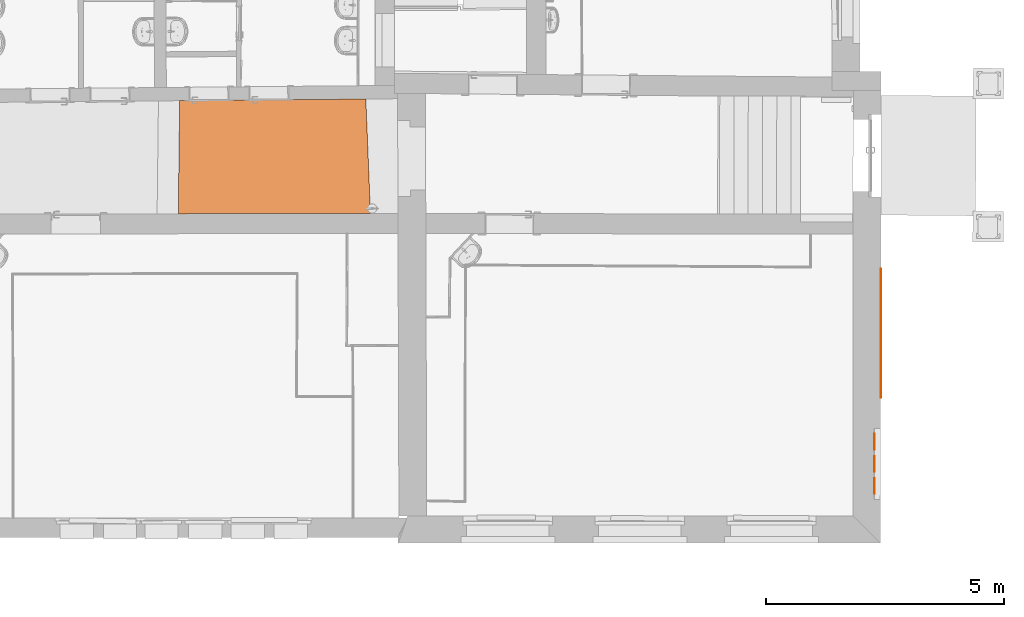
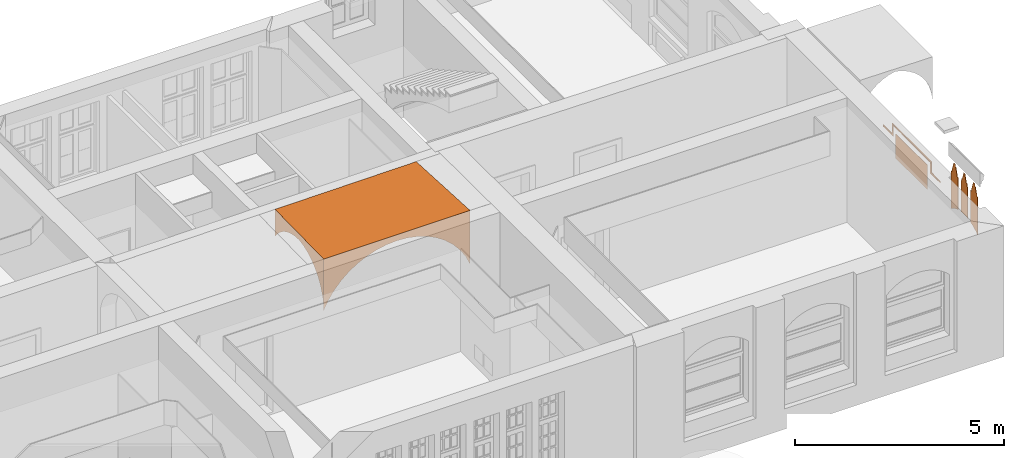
# One storey, part 150 of 158: 6 proxies.
"""IFC2X3 building model written with IfcOpenShell, lengths in metres."""

from ifc_helpers import new_model, entity, si_unit, converted_unit, derived_unit, money_unit, direction, frame, origin_with_axes, place, context, subcontext, project, spatial, open_shell, faceted_brep, surface_model, material, type_object, element, save


model = new_model("IFC2X3")

# Units and contexts
model_context = context("Model", 3, precision=1e-05, world=origin_with_axes(), true_north=direction((0.0, 1.0)))
body_context = subcontext(model_context, "Body", "Model", "MODEL_VIEW")
ifc_project = project(units=[si_unit("LENGTHUNIT", "METRE"), si_unit("AREAUNIT", "SQUARE_METRE"), si_unit("VOLUMEUNIT", "CUBIC_METRE"), converted_unit("PLANEANGLEUNIT", "DEGREE", entity("IfcPlaneAngleMeasure", 0.0174532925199), si_unit("PLANEANGLEUNIT", "RADIAN"), dimensions=[0, 0, 0, 0, 0, 0, 0]), money_unit("EUR"), converted_unit("TIMEUNIT", "Year", entity("IfcTimeMeasure", 31556926.0), si_unit("TIMEUNIT", "SECOND"), dimensions=[0, 0, 1, 0, 0, 0, 0]), si_unit("MASSUNIT", "GRAM", prefix="KILO"), si_unit("THERMODYNAMICTEMPERATUREUNIT", "DEGREE_CELSIUS"), si_unit("LUMINOUSINTENSITYUNIT", "LUMEN"), si_unit("ENERGYUNIT", "JOULE", prefix="MEGA"), derived_unit("THERMALCONDUCTANCEUNIT", [(si_unit("POWERUNIT", "WATT"), 1), (si_unit("LENGTHUNIT", "METRE"), -1), (si_unit("THERMODYNAMICTEMPERATUREUNIT", "KELVIN"), -1)]), derived_unit("SPECIFICHEATCAPACITYUNIT", [(si_unit("ENERGYUNIT", "JOULE"), 1), (si_unit("MASSUNIT", "GRAM", prefix="KILO"), -1), (si_unit("THERMODYNAMICTEMPERATUREUNIT", "KELVIN"), -1)]), derived_unit("MASSDENSITYUNIT", [(si_unit("MASSUNIT", "GRAM", prefix="KILO"), 1), (si_unit("VOLUMEUNIT", "CUBIC_METRE"), -1)])], contexts=[model_context])

# Site, building, storey
site_placement = place(None, origin_with_axes())
site = spatial("IfcSite", under=ifc_project, at=site_placement, Name="Gelände", CompositionType="ELEMENT")
building_placement = place(site_placement, origin_with_axes())
building = spatial("IfcBuilding", under=site, at=building_placement, Name="Gebäude", CompositionType="ELEMENT")
storey_placement = place(building_placement, origin_with_axes())
storey = spatial("IfcBuildingStorey", under=building, at=storey_placement, Name="ERDGESCHOSS", CompositionType="ELEMENT", Elevation=0.0)

# Proxies
ifc_material = material(Name="01_ALLGEMEIN - BAUTEIL")
building_element_proxy_type_1 = type_object("IfcBuildingElementProxyType", Name="01_ALLGEMEIN - BAUTEIL", PredefinedType="NOTDEFINED")
proxy_1_placement = place(storey_placement, frame((31.9779050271, 10.9235025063, 2.75776734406), z_axis=(0.0, 0.0, 1.0), x_axis=(1.0, 0.0, 0.0)))
element("IfcBuildingElementProxy", 1, at=proxy_1_placement, inside=storey, type_object=building_element_proxy_type_1, material=ifc_material, Name="Morph-329", context=body_context, shape_type="Brep", body=[
    faceted_brep([(0.0, 0.0, 1.10229232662), (0.0, 0.0, 0.0), (0.01, 0.0, 0.0), (0.01, 0.0, 1.10229232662), (0.0, 0.0374685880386, 0.0272185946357), (0.0, 0.0350000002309, 1.10229232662), (0.0, 0.0350000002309, 1.18637933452), (0.0, 0.0700000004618, 1.18637933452), (0.0, 0.0700000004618, 1.2604663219), (0.0, 0.0950000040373, 1.2604663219), (0.0, 0.0950000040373, 1.33490932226), (0.0, 0.124999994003, 1.33490932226), (0.0, 0.124999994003, 1.40935232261), (0.0, 0.202516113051, 1.40935232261), (0.0, 0.202516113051, 1.33490932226), (0.0, 0.232516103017, 1.33490932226), (0.0, 0.232516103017, 1.2604663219), (0.0, 0.257516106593, 1.2604663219), (0.0, 0.257516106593, 1.18637933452), (0.0, 0.292516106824, 1.18637933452), (0.0, 0.292516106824, 1.10229232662), (0.0, 0.327516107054, 1.10229232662), (0.0, 0.328141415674, 0.16784323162), (0.0, 0.284142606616, 0.153391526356), (0.0, 0.240828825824, 0.137000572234), (0.0, 0.198285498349, 0.118702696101), (0.0, 0.156596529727, 0.0985339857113), (0.0, 0.115844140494, 0.0765342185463), (0.0, 0.0761087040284, 0.052746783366), (0.01, 0.0374685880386, 0.0272185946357), (0.01, 0.0761087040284, 0.052746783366), (0.01, 0.115844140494, 0.0765342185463), (0.01, 0.156596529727, 0.0985339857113), (0.01, 0.198285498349, 0.118702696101), (0.01, 0.240828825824, 0.137000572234), (0.01, 0.284142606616, 0.153391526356), (0.01, 0.328141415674, 0.16784323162), (0.01, 0.327516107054, 1.10229232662), (0.01, 0.292516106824, 1.10229232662), (0.01, 0.292516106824, 1.18637933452), (0.01, 0.257516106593, 1.18637933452), (0.01, 0.257516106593, 1.2604663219), (0.01, 0.232516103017, 1.2604663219), (0.01, 0.232516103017, 1.33490932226), (0.01, 0.202516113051, 1.33490932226), (0.01, 0.202516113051, 1.40935232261), (0.01, 0.124999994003, 1.40935232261), (0.01, 0.124999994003, 1.33490932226), (0.01, 0.0950000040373, 1.33490932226), (0.01, 0.0950000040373, 1.2604663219), (0.01, 0.0700000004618, 1.2604663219), (0.01, 0.0700000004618, 1.18637933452), (0.01, 0.0350000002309, 1.18637933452), (0.01, 0.0350000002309, 1.10229232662)], [[[0, 1, 2, 3]], [[4, 1, 0, 5, 6, 7, 8, 9, 10, 11, 12, 13, 14, 15, 16, 17, 18, 19, 20, 21, 22, 23, 24, 25, 26, 27, 28]], [[1, 4, 29, 2]], [[29, 30, 31, 32, 33, 34, 35, 36, 37, 38, 39, 40, 41, 42, 43, 44, 45, 46, 47, 48, 49, 50, 51, 52, 53, 3, 2]], [[5, 0, 3, 53]], [[6, 5, 53, 52]], [[7, 6, 52, 51]], [[8, 7, 51, 50]], [[9, 8, 50, 49]], [[10, 9, 49, 48]], [[11, 10, 48, 47]], [[12, 11, 47, 46]], [[13, 12, 46, 45]], [[14, 13, 45, 44]], [[15, 14, 44, 43]], [[16, 15, 43, 42]], [[17, 16, 42, 41]], [[18, 17, 41, 40]], [[19, 18, 40, 39]], [[20, 19, 39, 38]], [[21, 20, 38, 37]], [[22, 21, 37, 36]], [[35, 23, 22, 36]], [[34, 24, 23, 35]], [[25, 24, 34, 33]], [[32, 26, 25, 33]], [[27, 26, 32, 31]], [[28, 27, 31, 30]], [[4, 28, 30, 29]]]),
])
proxy_2_placement = place(storey_placement, frame((31.9879050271, 11.3908229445, 2.95770138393), z_axis=(0.0, 0.0, 1.0), x_axis=(1.0, 0.0, 0.0)))
element("IfcBuildingElementProxy", 2, at=proxy_2_placement, inside=storey, type_object=building_element_proxy_type_1, material=ifc_material, Name="Morph-330", context=body_context, shape_type="Brep", body=[
    faceted_brep([(-0.01, 0.000603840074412, 0.902358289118), (-0.01, 0.0, 0.0), (0.0, 0.0, 0.0), (0.0, 0.000603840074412, 0.902358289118), (-0.01, 0.0407900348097, 0.00567864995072), (-0.01, 0.0356038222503, 0.902358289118), (-0.01, 0.0356038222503, 0.986445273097), (-0.01, 0.0706038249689, 0.986445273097), (-0.01, 0.0706038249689, 1.06053227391), (-0.01, 0.095603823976, 1.06053227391), (-0.01, 0.095603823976, 1.13497527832), (-0.01, 0.12560383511, 1.13497527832), (-0.01, 0.12560383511, 1.20941828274), (-0.01, 0.203119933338, 1.20941828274), (-0.01, 0.203119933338, 1.13497527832), (-0.01, 0.233119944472, 1.13497527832), (-0.01, 0.233119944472, 1.06053227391), (-0.01, 0.258119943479, 1.06053227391), (-0.01, 0.258119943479, 0.986445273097), (-0.01, 0.293119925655, 0.986445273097), (-0.01, 0.293119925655, 0.902358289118), (-0.01, 0.328119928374, 0.902358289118), (-0.01, 0.328119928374, 3.11719372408e-05), (-0.01, 0.287328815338, 0.00570207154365), (-0.01, 0.246345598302, 0.00975792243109), (-0.01, 0.205234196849, 0.012192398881), (-0.01, 0.164058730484, 0.0130017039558), (-0.01, 0.122883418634, 0.0121845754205), (-0.01, 0.0817724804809, 0.00974228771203), (0.0, 0.0407900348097, 0.00567864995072), (0.0, 0.0817724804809, 0.00974228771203), (0.0, 0.122883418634, 0.0121845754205), (0.0, 0.164058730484, 0.0130017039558), (0.0, 0.205234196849, 0.012192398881), (0.0, 0.246345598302, 0.00975792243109), (0.0, 0.287328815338, 0.00570207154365), (0.0, 0.328119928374, 3.11719372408e-05), (0.0, 0.328119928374, 0.902358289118), (0.0, 0.293119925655, 0.902358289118), (0.0, 0.293119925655, 0.986445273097), (0.0, 0.258119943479, 0.986445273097), (0.0, 0.258119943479, 1.06053227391), (0.0, 0.233119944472, 1.06053227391), (0.0, 0.233119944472, 1.13497527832), (0.0, 0.203119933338, 1.13497527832), (0.0, 0.203119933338, 1.20941828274), (0.0, 0.12560383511, 1.20941828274), (0.0, 0.12560383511, 1.13497527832), (0.0, 0.095603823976, 1.13497527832), (0.0, 0.095603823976, 1.06053227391), (0.0, 0.0706038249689, 1.06053227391), (0.0, 0.0706038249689, 0.986445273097), (0.0, 0.0356038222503, 0.986445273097), (0.0, 0.0356038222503, 0.902358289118)], [[[0, 1, 2, 3]], [[4, 1, 0, 5, 6, 7, 8, 9, 10, 11, 12, 13, 14, 15, 16, 17, 18, 19, 20, 21, 22, 23, 24, 25, 26, 27, 28]], [[1, 4, 29, 2]], [[2, 29, 30, 31, 32, 33, 34, 35, 36, 37, 38, 39, 40, 41, 42, 43, 44, 45, 46, 47, 48, 49, 50, 51, 52, 53, 3]], [[5, 0, 3, 53]], [[6, 5, 53, 52]], [[7, 6, 52, 51]], [[8, 7, 51, 50]], [[9, 8, 50, 49]], [[10, 9, 49, 48]], [[11, 10, 48, 47]], [[12, 11, 47, 46]], [[13, 12, 46, 45]], [[14, 13, 45, 44]], [[15, 14, 44, 43]], [[16, 15, 43, 42]], [[17, 16, 42, 41]], [[18, 17, 41, 40]], [[19, 18, 40, 39]], [[20, 19, 39, 38]], [[21, 20, 38, 37]], [[22, 21, 37, 36]], [[23, 22, 36, 35]], [[24, 23, 35, 34]], [[25, 24, 34, 33]], [[26, 25, 33, 32]], [[27, 26, 32, 31]], [[28, 27, 31, 30]], [[4, 28, 30, 29]]]),
])
proxy_3_placement = place(storey_placement, frame((31.9779050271, 11.8589428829, 3.86005965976), z_axis=(0.0, 0.0, 1.0), x_axis=(1.0, 0.0, 0.0)))
element("IfcBuildingElementProxy", 3, at=proxy_3_placement, inside=storey, type_object=building_element_proxy_type_1, material=ifc_material, Name="Morph-331", context=body_context, shape_type="Brep", body=[
    faceted_brep([(0.0, 0.043373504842, -0.94890079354), (0.0, -0.000625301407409, -0.934449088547), (0.0, 0.0, 0.0), (0.0, 0.0349999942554, 0.0), (0.0, 0.0349999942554, 0.0840870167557), (0.0, 0.0699999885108, 0.0840870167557), (0.0, 0.0699999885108, 0.158174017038), (0.0, 0.0949999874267, 0.158174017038), (0.0, 0.0949999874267, 0.232617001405), (0.0, 0.124999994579, 0.232617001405), (0.0, 0.124999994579, 0.307060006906), (0.0, 0.202516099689, 0.307060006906), (0.0, 0.202516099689, 0.232617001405), (0.0, 0.232516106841, 0.232617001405), (0.0, 0.232516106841, 0.158174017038), (0.0, 0.257516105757, 0.158174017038), (0.0, 0.257516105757, 0.0840870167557), (0.0, 0.292516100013, 0.0840870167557), (0.0, 0.292516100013, 0.0), (0.0, 0.327516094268, 0.0), (0.0, 0.327516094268, -1.10229231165), (0.0, 0.290047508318, -1.07507371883), (0.0, 0.251407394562, -1.04954553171), (0.0, 0.211671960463, -1.02575809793), (0.0, 0.170919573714, -1.00375833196), (0.0, 0.12923060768, -0.983589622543), (0.0, 0.0866872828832, -0.965291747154), (0.01, 0.043373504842, -0.94890079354), (0.01, -0.000625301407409, -0.934449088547), (0.01, 0.0, 0.0), (0.01, 0.0349999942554, 0.0), (0.01, 0.0349999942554, 0.0840870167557), (0.01, 0.0699999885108, 0.0840870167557), (0.01, 0.0699999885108, 0.158174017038), (0.01, 0.0949999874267, 0.158174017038), (0.01, 0.0949999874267, 0.232617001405), (0.01, 0.124999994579, 0.232617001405), (0.01, 0.124999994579, 0.307060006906), (0.01, 0.202516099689, 0.307060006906), (0.01, 0.202516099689, 0.232617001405), (0.01, 0.232516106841, 0.232617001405), (0.01, 0.232516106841, 0.158174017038), (0.01, 0.257516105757, 0.158174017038), (0.01, 0.257516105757, 0.0840870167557), (0.01, 0.292516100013, 0.0840870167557), (0.01, 0.292516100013, 0.0), (0.01, 0.327516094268, 0.0), (0.01, 0.327516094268, -1.10229231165), (0.01, 0.290047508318, -1.07507371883), (0.01, 0.251407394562, -1.04954553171), (0.01, 0.211671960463, -1.02575809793), (0.01, 0.170919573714, -1.00375833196), (0.01, 0.12923060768, -0.983589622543), (0.01, 0.0866872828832, -0.965291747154)], [[[0, 1, 2, 3, 4, 5, 6, 7, 8, 9, 10, 11, 12, 13, 14, 15, 16, 17, 18, 19, 20, 21, 22, 23, 24, 25, 26]], [[1, 0, 27, 28]], [[2, 1, 28, 29]], [[3, 2, 29, 30]], [[4, 3, 30, 31]], [[5, 4, 31, 32]], [[6, 5, 32, 33]], [[7, 6, 33, 34]], [[8, 7, 34, 35]], [[9, 8, 35, 36]], [[10, 9, 36, 37]], [[11, 10, 37, 38]], [[12, 11, 38, 39]], [[13, 12, 39, 40]], [[14, 13, 40, 41]], [[15, 14, 41, 42]], [[16, 15, 42, 43]], [[17, 16, 43, 44]], [[18, 17, 44, 45]], [[19, 18, 45, 46]], [[20, 19, 46, 47]], [[21, 20, 47, 48]], [[22, 21, 48, 49]], [[23, 22, 49, 50]], [[24, 23, 50, 51]], [[25, 24, 51, 52]], [[26, 25, 52, 53]], [[0, 26, 53, 27]], [[30, 29, 28, 27, 53, 52, 51, 50, 49, 48, 47, 46, 45, 44, 43, 42, 41, 40, 39, 38, 37, 36, 35, 34, 33, 32, 31]]]),
])
proxy_4_placement = place(storey_placement, frame((-0.733925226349, 0.0, 0.0), z_axis=(0.0, 0.0, 1.0), x_axis=(1.0, 0.0, 0.0)))
element("IfcBuildingElementProxy", 4, at=proxy_4_placement, inside=storey, type_object=building_element_proxy_type_1, material=ifc_material, Name="Morph-341", context=body_context, shape_type="SurfaceModel", body=[
    surface_model("IfcShellBasedSurfaceModel", [(32.8489522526, 12.9463308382, 2.99625866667), (32.8489522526, 12.9463308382, 3.04122766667), (32.8489522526, 13.3732746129, 3.04122766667), (32.8489522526, 13.4165627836, 3.04122766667), (32.8489522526, 13.4165627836, 2.99625866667), (32.8589522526, 12.9463308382, 2.99625866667), (32.8589522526, 12.9463308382, 3.04122766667), (32.8589522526, 13.3732746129, 3.04122766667), (32.8489522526, 13.3732746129, 3.35026466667), (32.8489522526, 13.4165627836, 3.35026466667), (32.8489522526, 13.4165627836, 3.30768566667), (32.8589522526, 13.4165627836, 3.30768566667), (32.8589522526, 13.4165627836, 2.99625866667), (32.8589522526, 13.3732746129, 3.35026466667), (32.8589522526, 15.2328136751, 3.35026466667), (32.8489522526, 15.2328136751, 3.35026466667), (32.8489522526, 15.1895255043, 3.35026466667), (32.8489522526, 15.1895255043, 3.30768566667), (32.8589522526, 15.1895255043, 3.30768566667), (32.8489522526, 15.2328136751, 3.04122766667), (32.8589522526, 15.2328136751, 3.04122766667), (32.8489522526, 15.1895255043, 3.04122766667), (32.8489522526, 15.1895255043, 2.99625866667), (32.8589522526, 15.1895255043, 2.99625866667), (32.8489522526, 15.6597574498, 3.04122766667), (32.8589522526, 15.6597574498, 3.04122766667), (32.8489522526, 15.6597574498, 2.99625866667), (32.8589522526, 15.6597574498, 2.99625866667)], [open_shell([[[0, 1, 2, 3, 4]], [[1, 0, 5, 6]], [[2, 1, 6, 7]], [[2, 8, 9, 10, 3]], [[4, 3, 10, 11, 12]], [[0, 4, 12, 5]], [[8, 2, 7, 13]], [[9, 8, 13, 14, 15, 16]], [[10, 9, 16, 17]], [[10, 17, 18, 11]], [[19, 15, 14, 20]], [[17, 16, 15, 19, 21]], [[21, 22, 23, 18, 17]], [[24, 19, 20, 25]], [[22, 21, 19, 24, 26]], [[22, 26, 27, 23]], [[26, 24, 25, 27]]])]),
])
proxy_5_placement = place(storey_placement, frame((32.1250270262, 13.5580655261, 2.43007666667), z_axis=(0.0, 0.0, 1.0), x_axis=(1.0, 0.0, 0.0)))
element("IfcBuildingElementProxy", 5, at=proxy_5_placement, inside=storey, type_object=building_element_proxy_type_1, material=ifc_material, Name="Morph-344", context=body_context, shape_type="Brep", body=[
    faceted_brep([(-0.01, 0.0, 0.712582), (-0.01, 1.50612409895, 0.712582), (-0.01, 1.50612409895, 0.0), (-0.01, 0.0, 0.0), (0.0, 0.0, 0.712582), (0.0, 1.50612409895, 0.712582), (0.0, 1.50612409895, 0.0), (0.0, 0.0, 0.0)], [[[0, 1, 2, 3]], [[1, 0, 4, 5]], [[2, 1, 5, 6]], [[3, 2, 6, 7]], [[0, 3, 7, 4]], [[7, 6, 5, 4]]]),
])
building_element_proxy_type_2 = type_object("IfcBuildingElementProxyType", Name="quickArch Kreuzgratgewölbe_1.0", PredefinedType="NOTDEFINED")
proxy_6_placement = place(storey_placement, frame((18.3505057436, 19.0566568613, 2.2), z_axis=(0.0, 0.0, 1.0), x_axis=(0.999998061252, 0.00196913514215, 0.0)))
element("IfcBuildingElementProxy", 6, at=proxy_6_placement, inside=storey, type_object=building_element_proxy_type_2, Name="Objekt-00221", context=body_context, shape_type="Brep", body=[
    faceted_brep([(-0.979365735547, -0.748455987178, 1.19204291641), (-0.981492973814, -0.900463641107, 1.21622587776), (-0.983643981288, -1.05416978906, 1.22431666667), (-0.983643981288, -1.05416978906, 1.4), (-0.967018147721, 0.133874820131, 1.4), (-0.967018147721, 0.133874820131, 0.615891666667), (-0.968367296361, 0.0374676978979, 0.735889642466), (-0.969885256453, -0.071002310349, 0.845103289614), (-0.971555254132, -0.190336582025, 0.942325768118), (-0.973358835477, -0.319216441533, 1.0264827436), (-0.975276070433, -0.456217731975, 1.096644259), (-0.97728577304, -0.599826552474, 1.1520350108), (0.700638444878, -0.781376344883, 1.19746266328), (1.05107698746, -0.973705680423, 1.20643433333), (1.05107698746, -0.973705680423, 1.4), (0.360847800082, -0.594890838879, 1.17082025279), (0.0420294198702, -0.419915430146, 1.12731661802), (-0.246129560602, -0.261766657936, 1.06827359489), (-0.49487357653, -0.125249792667, 0.995485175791), (-0.69664466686, -0.0145128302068, 0.911163), (-0.845312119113, 0.0670795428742, 0.81786915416), (-0.936358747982, 0.117048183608, 0.718438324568)], [[[0, 1, 2, 3, 4, 5, 6, 7, 8, 9, 10, 11]], [[1, 0, 12]], [[2, 1, 13]], [[3, 2, 13, 14]], [[4, 3, 14]], [[5, 4, 14, 13, 12, 15, 16, 17, 18, 19, 20, 21]], [[6, 5, 21]], [[7, 6, 20]], [[8, 7, 19]], [[9, 8, 18]], [[10, 9, 17]], [[11, 10, 16]], [[0, 11, 15]], [[0, 15, 12]], [[1, 12, 13]], [[15, 11, 16]], [[10, 17, 16]], [[9, 18, 17]], [[8, 19, 18]], [[7, 20, 19]], [[6, 21, 20]]]),
    faceted_brep([(-1.00026981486, -2.24221439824, -0.0973119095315), (-1.00002411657, -2.22465735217, 0.118018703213), (-0.969105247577, -2.22294290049, 0.129081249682), (-1.00026981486, -2.24221439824, 1.4), (-0.983643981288, -1.05416978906, 1.4), (-0.983643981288, -1.05416978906, 1.22431666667), (-0.986614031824, -1.2664029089, 1.18401946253), (-0.989453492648, -1.46930438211, 1.10986750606), (-0.992087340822, -1.65751323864, 1.00382000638), (-0.994445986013, -1.82605671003, 0.868678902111), (-0.996467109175, -1.97048161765, 0.708014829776), (-0.998097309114, -2.08697203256, 0.526072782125), (-0.999293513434, -2.1724500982, 0.327659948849), (-0.876558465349, -2.16571396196, 0.348595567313), (-0.725441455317, -2.07226645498, 0.554561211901), (-0.520345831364, -1.94543973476, 0.740720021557), (-0.267503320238, -1.78908736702, 0.901415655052), (0.0254035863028, -1.60796003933, 1.03176545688), (0.349475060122, -1.4075612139, 1.12780881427), (0.694864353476, -1.19397990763, 1.1866274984), (1.05107698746, -0.973705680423, 1.20643433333), (1.05107698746, -0.973705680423, 1.4)], [[[0, 1, 2]], [[1, 0, 3, 4, 5, 6, 7, 8, 9, 10, 11, 12]], [[2, 1, 12]], [[3, 0, 2, 13, 14, 15, 16, 17, 18, 19, 20, 21]], [[4, 3, 21]], [[5, 4, 21, 20]], [[6, 5, 19]], [[7, 6, 18]], [[8, 7, 17]], [[9, 8, 16]], [[10, 9, 15]], [[11, 10, 14]], [[12, 11, 13]], [[2, 12, 13]], [[13, 11, 14]], [[14, 10, 15]], [[15, 9, 16]], [[8, 17, 16]], [[17, 7, 18]], [[18, 6, 19]], [[19, 5, 20]]]),
    faceted_brep([(-0.870496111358, -2.24226010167, 0.155013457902), (-1.00026981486, -2.24221439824, -0.0973119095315), (-0.969105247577, -2.22294290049, 0.129081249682), (-0.709361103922, -2.24231684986, 0.388561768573), (-0.519538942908, -2.24238370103, 0.599457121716), (-0.304179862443, -2.24245954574, 0.784199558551), (-0.0668579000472, -2.2425431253, 0.939723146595), (0.188488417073, -2.24263305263, 1.06344686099), (0.457621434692, -2.24272783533, 1.15331741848), (0.736074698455, -2.24282590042, 1.20784335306), (1.01922707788, -2.24292562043, 1.22611976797), (1.01922707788, -2.24292562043, 1.4), (-1.00026981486, -2.24221439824, 1.4), (1.05107698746, -0.973705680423, 1.4), (1.05107698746, -0.973705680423, 1.20643433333), (0.694864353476, -1.19397990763, 1.1866274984), (0.349475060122, -1.4075612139, 1.12780881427), (0.0254035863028, -1.60796003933, 1.03176545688), (-0.267503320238, -1.78908736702, 0.901415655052), (-0.520345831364, -1.94543973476, 0.740720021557), (-0.725441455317, -2.07226645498, 0.554561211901), (-0.876558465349, -2.16571396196, 0.348595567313)], [[[0, 1, 2]], [[1, 0, 3, 4, 5, 6, 7, 8, 9, 10, 11, 12]], [[1, 12, 13, 14, 15, 16, 17, 18, 19, 20, 21, 2]], [[0, 2, 21]], [[3, 0, 21]], [[3, 20, 4]], [[5, 4, 19]], [[6, 5, 18]], [[7, 6, 17]], [[8, 7, 16]], [[8, 15, 9]], [[10, 9, 14]], [[11, 10, 14, 13]], [[12, 11, 13]], [[9, 15, 14]], [[8, 16, 15]], [[7, 17, 16]], [[6, 18, 17]], [[5, 19, 18]], [[4, 20, 19]], [[3, 21, 20]]]),
    faceted_brep([(1.30821430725, -2.24302739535, 1.20670600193), (1.39622826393, -1.1942269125, 1.18557650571), (1.73089229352, -1.40804771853, 1.12363677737), (1.01922707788, -2.24292562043, 1.22611976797), (1.05107698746, -0.973705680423, 1.20643433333), (1.05107698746, -0.973705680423, 1.4), (3.03872397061, -2.24363684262, 1.4), (3.03872397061, -2.24363684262, -0.166491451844), (3.00852714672, -2.22434373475, 0.0719146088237), (2.91885419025, -2.16705062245, 0.303076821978), (2.77242976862, -2.07349832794, 0.519971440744), (2.57370291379, -1.94652939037, 0.716008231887), (2.32871184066, -1.79000169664, 0.885230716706), (2.04490047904, -1.60867126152, 1.02249715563), (1.59200821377, -2.24312734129, 1.14881358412), (1.86550880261, -2.24322366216, 1.05348288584), (2.12380105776, -2.24331462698, 0.922427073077), (2.36224326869, -2.24339860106, 0.758001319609), (2.57655044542, -2.24347407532, 0.563160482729), (2.76287132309, -2.24353969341, 0.341406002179), (2.9178575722, -2.24359427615, 0.0967229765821), (1.01922707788, -2.24292562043, 1.4)], [[[0, 1, 2]], [[1, 0, 3]], [[1, 4, 5, 6, 7, 8, 9, 10, 11, 12, 13, 2]], [[14, 0, 2]], [[0, 14, 15, 16, 17, 18, 19, 20, 7, 6, 21, 3]], [[1, 3, 4]], [[3, 21, 5, 4]], [[5, 21, 6]], [[20, 8, 7]], [[19, 9, 8]], [[18, 10, 9]], [[10, 17, 11]], [[11, 16, 12]], [[15, 13, 12]], [[13, 14, 2]], [[15, 14, 13]], [[16, 15, 12]], [[17, 16, 11]], [[18, 17, 10]], [[19, 18, 9]], [[20, 19, 8]]]),
    faceted_brep([(1.73089229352, -1.40804771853, 1.12363677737), (3.00893004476, -1.46525070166, 1.10585338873), (3.01623173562, -1.65601223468, 0.988663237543), (1.39622826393, -1.1942269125, 1.18557650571), (3.03277732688, -2.08827681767, 0.481619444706), (3.0283037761, -1.9714023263, 0.672661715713), (3.02274300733, -1.82612354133, 0.843072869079), (3.00101745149, -1.25852893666, 1.19176212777), (2.99268849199, -1.04092932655, 1.24427733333), (2.99268849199, -1.04092932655, 1.4), (3.03872397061, -2.24363684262, 1.4), (3.03872397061, -2.24363684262, -0.166491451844), (3.03805226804, -2.22608816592, 0.056820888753), (3.03605367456, -2.17387358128, 0.274642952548), (2.04490047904, -1.60867126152, 1.02249715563), (2.32871184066, -1.79000169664, 0.885230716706), (2.57370291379, -1.94652939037, 0.716008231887), (2.77242976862, -2.07349832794, 0.519971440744), (2.91885419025, -2.16705062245, 0.303076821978), (3.00852714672, -2.22434373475, 0.0719146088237), (1.05107698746, -0.973705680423, 1.4), (1.05107698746, -0.973705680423, 1.20643433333)], [[[0, 1, 2]], [[0, 3, 1]], [[4, 5, 6, 2, 1, 7, 8, 9, 10, 11, 12, 13]], [[14, 0, 2]], [[15, 16, 17, 18, 19, 11, 10, 20, 21, 3, 0, 14]], [[3, 7, 1]], [[16, 5, 4]], [[15, 6, 5]], [[6, 14, 2]], [[21, 8, 7]], [[8, 21, 20, 9]], [[9, 20, 10]], [[12, 11, 19]], [[13, 12, 18]], [[4, 13, 17]], [[16, 15, 5]], [[16, 4, 17]], [[18, 17, 13]], [[19, 18, 12]], [[7, 3, 21]], [[15, 14, 6]]]),
    faceted_brep([(1.99886500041, -0.405963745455, 1.10012562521), (2.26952977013, -0.24383071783, 1.0207908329), (2.97338508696, -0.536615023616, 1.14118973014), (1.69940217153, -0.585347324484, 1.15858048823), (1.38024030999, -0.776530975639, 1.19437930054), (1.05107698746, -0.973705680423, 1.20643433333), (1.05107698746, -0.973705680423, 1.4), (2.94665301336, 0.161778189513, 1.4), (2.94665301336, 0.161778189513, 0.412935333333), (2.91785495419, 0.14452763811, 0.550724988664), (2.83233579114, 0.093300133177, 0.684327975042), (2.6926939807, 0.00965219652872, 0.809684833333), (2.50317246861, -0.103874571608, 0.922986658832), (2.96749491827, -0.382730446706, 1.06293655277), (2.97962303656, -0.699585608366, 1.19811418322), (2.9860963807, -0.86870603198, 1.2326843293), (2.99268849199, -1.04092932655, 1.24427733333), (2.99268849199, -1.04092932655, 1.4), (2.95292965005, -0.00220312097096, 0.71606568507), (2.94940138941, 0.0899750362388, 0.570019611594), (2.96205865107, -0.240704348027, 0.964764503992), (2.95717422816, -0.11309554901, 0.848442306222)], [[[0, 1, 2]], [[3, 4, 5, 6, 7, 8, 9, 10, 11, 12, 1, 0]], [[1, 13, 2]], [[0, 2, 14]], [[4, 3, 15]], [[5, 4, 16]], [[6, 5, 16, 17]], [[7, 6, 17]], [[18, 19, 8, 7, 17, 16, 15, 14, 2, 13, 20, 21]], [[8, 19, 9]], [[18, 10, 9]], [[11, 10, 21]], [[20, 12, 11]], [[1, 12, 13]], [[3, 0, 14]], [[3, 14, 15]], [[4, 15, 16]], [[19, 18, 9]], [[12, 20, 13]], [[11, 21, 20]], [[10, 18, 21]]]),
    faceted_brep([(1.38024030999, -0.776530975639, 1.19437930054), (1.05107698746, -0.973705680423, 1.20643433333), (1.23057666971, 0.149543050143, 1.20540812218), (1.69940217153, -0.585347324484, 1.15858048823), (1.99886500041, -0.405963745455, 1.10012562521), (2.26952977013, -0.24383071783, 1.0207908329), (2.50317246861, -0.103874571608, 0.922986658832), (2.6926939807, 0.00965219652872, 0.809684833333), (2.83233579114, 0.093300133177, 0.684327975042), (2.91785495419, 0.14452763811, 0.550724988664), (2.94665301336, 0.161778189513, 0.412935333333), (2.94665301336, 0.161778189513, 1.4), (1.05107698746, -0.973705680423, 1.4), (0.989817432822, 0.147826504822, 1.21583033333), (1.46953470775, 0.151246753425, 1.17421946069), (1.70490382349, 0.152924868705, 1.12249768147), (1.93492314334, 0.154564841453, 1.05062973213), (2.15787181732, 0.156154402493, 0.959153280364), (2.37208189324, 0.157681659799, 0.848752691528), (2.57595079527, 0.159135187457, 0.72025390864), (2.76795331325, 0.160504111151, 0.574618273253), (0.989817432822, 0.147826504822, 1.4)], [[[0, 1, 2]], [[1, 0, 3, 4, 5, 6, 7, 8, 9, 10, 11, 12]], [[1, 13, 2]], [[2, 14, 0]], [[14, 3, 0]], [[3, 15, 4]], [[16, 5, 4]], [[6, 5, 17]], [[7, 6, 18]], [[8, 7, 19]], [[8, 20, 9]], [[10, 9, 20]], [[13, 21, 11, 10, 20, 19, 18, 17, 16, 15, 14, 2]], [[21, 12, 11]], [[13, 1, 12, 21]], [[3, 14, 15]], [[4, 15, 16]], [[16, 17, 5]], [[18, 6, 17]], [[18, 19, 7]], [[20, 8, 19]]]),
    faceted_brep([(-0.845312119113, 0.0670795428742, 0.81786915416), (-0.936358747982, 0.117048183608, 0.718438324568), (-0.568763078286, 0.13671426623, 0.84862992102), (-0.69664466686, -0.0145128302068, 0.911163), (-0.49487357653, -0.125249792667, 0.995485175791), (-0.246129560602, -0.261766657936, 1.06827359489), (0.0420294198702, -0.419915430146, 1.12731661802), (0.360847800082, -0.594890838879, 1.17082025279), (0.700638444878, -0.781376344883, 1.19746266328), (1.05107698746, -0.973705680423, 1.20643433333), (1.05107698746, -0.973705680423, 1.4), (-0.967018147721, 0.133874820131, 1.4), (-0.967018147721, 0.133874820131, 0.615891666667), (-0.771738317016, 0.135267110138, 0.738845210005), (-0.358979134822, 0.138209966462, 0.944766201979), (-0.143302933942, 0.139747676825, 1.02683407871), (0.0773233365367, 0.141320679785, 1.0944750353), (0.301935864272, 0.142922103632, 1.14739358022), (0.529553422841, 0.144544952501, 1.18535853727), (0.759181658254, 0.146182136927, 1.20820405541), (0.989817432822, 0.147826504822, 1.21583033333), (0.989817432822, 0.147826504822, 1.4)], [[[0, 1, 2]], [[1, 0, 3, 4, 5, 6, 7, 8, 9, 10, 11, 12]], [[1, 13, 2]], [[0, 2, 14]], [[3, 0, 14]], [[4, 3, 15]], [[5, 4, 16]], [[17, 6, 5]], [[7, 6, 18]], [[8, 7, 19]], [[9, 8, 20]], [[10, 9, 20, 21]], [[11, 10, 21]], [[13, 12, 11, 21, 20, 19, 18, 17, 16, 15, 14, 2]], [[13, 1, 12]], [[3, 14, 15]], [[4, 15, 16]], [[5, 16, 17]], [[6, 17, 18]], [[7, 18, 19]], [[8, 19, 20]]]),
])

save(model, "model.ifc")
